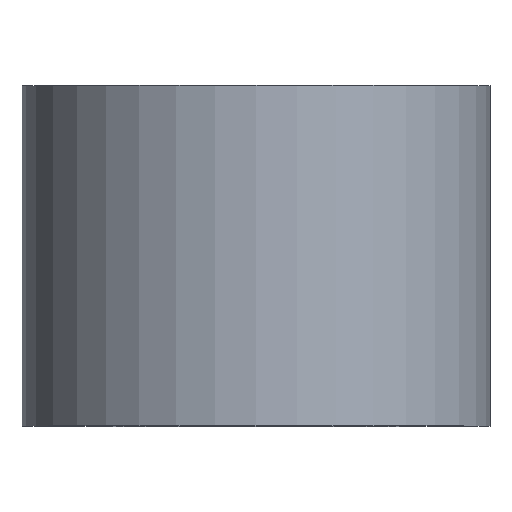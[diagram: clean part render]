
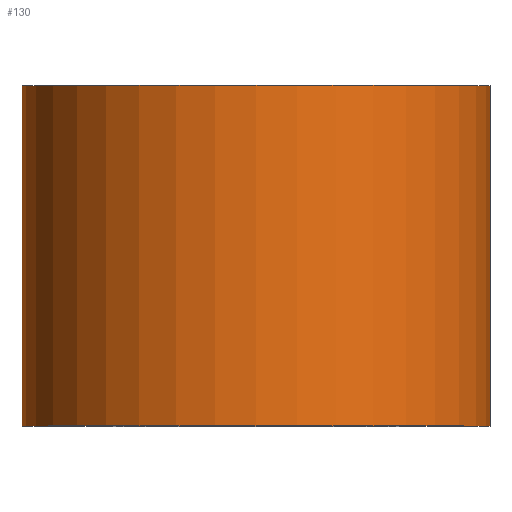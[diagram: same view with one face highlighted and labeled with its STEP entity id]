
A CAD part, top view. The second image highlights one B-rep face of the part: STEP entity #130.
In plain terms, the highlighted cylindrical face has radius 11 mm (diameter 22 mm), a partial arc.
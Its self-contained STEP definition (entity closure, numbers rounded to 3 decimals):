
#1 = CARTESIAN_POINT ( 'NONE',  ( -11., 0., 0. ) ) ;
#5 = VECTOR ( 'NONE', #25, 1000. ) ;
#8 = CARTESIAN_POINT ( 'NONE',  ( 11., 16., 0. ) ) ;
#19 = EDGE_LOOP ( 'NONE', ( #50, #164, #296, #71 ) ) ;
#21 = EDGE_CURVE ( 'NONE', #280, #219, #174, .T. ) ;
#25 = DIRECTION ( 'NONE',  ( 0., 1., 0. ) ) ;
#31 = DIRECTION ( 'NONE',  ( -1., 0., 0. ) ) ;
#36 = CARTESIAN_POINT ( 'NONE',  ( 11., 0., 0. ) ) ;
#40 = CIRCLE ( 'NONE', #116, 11. ) ;
#50 = ORIENTED_EDGE ( 'NONE', *, *, #235, .T. ) ;
#56 = VECTOR ( 'NONE', #208, 1000. ) ;
#71 = ORIENTED_EDGE ( 'NONE', *, *, #21, .F. ) ;
#96 = VERTEX_POINT ( 'NONE', #8 ) ;
#101 = FACE_OUTER_BOUND ( 'NONE', #19, .T. ) ;
#116 = AXIS2_PLACEMENT_3D ( 'NONE', #271, #139, #234 ) ;
#127 = EDGE_CURVE ( 'NONE', #219, #96, #151, .T. ) ;
#130 = ADVANCED_FACE ( 'NONE', ( #101 ), #294, .T. ) ;
#133 = DIRECTION ( 'NONE',  ( -1., 0., 0. ) ) ;
#138 = CARTESIAN_POINT ( 'NONE',  ( 11., 0., 0. ) ) ;
#139 = DIRECTION ( 'NONE',  ( 0., 1., 0. ) ) ;
#151 = CIRCLE ( 'NONE', #217, 11. ) ;
#160 = CARTESIAN_POINT ( 'NONE',  ( -11., 0., 0. ) ) ;
#164 = ORIENTED_EDGE ( 'NONE', *, *, #171, .T. ) ;
#171 = EDGE_CURVE ( 'NONE', #269, #96, #186, .T. ) ;
#174 = LINE ( 'NONE', #1, #5 ) ;
#177 = CARTESIAN_POINT ( 'NONE',  ( 0., 0., 0. ) ) ;
#181 = CARTESIAN_POINT ( 'NONE',  ( 0., 16., 0. ) ) ;
#186 = LINE ( 'NONE', #138, #56 ) ;
#208 = DIRECTION ( 'NONE',  ( 0., 1., 0. ) ) ;
#217 = AXIS2_PLACEMENT_3D ( 'NONE', #181, #243, #133 ) ;
#219 = VERTEX_POINT ( 'NONE', #231 ) ;
#231 = CARTESIAN_POINT ( 'NONE',  ( -11., 16., 0. ) ) ;
#234 = DIRECTION ( 'NONE',  ( -1., 0., 0. ) ) ;
#235 = EDGE_CURVE ( 'NONE', #280, #269, #40, .T. ) ;
#243 = DIRECTION ( 'NONE',  ( 0., 1., 0. ) ) ;
#266 = DIRECTION ( 'NONE',  ( 0., 1., 0. ) ) ;
#269 = VERTEX_POINT ( 'NONE', #36 ) ;
#271 = CARTESIAN_POINT ( 'NONE',  ( 0., 0., 0. ) ) ;
#280 = VERTEX_POINT ( 'NONE', #160 ) ;
#294 = CYLINDRICAL_SURFACE ( 'NONE', #300, 11. ) ;
#296 = ORIENTED_EDGE ( 'NONE', *, *, #127, .F. ) ;
#300 = AXIS2_PLACEMENT_3D ( 'NONE', #177, #266, #31 ) ;
